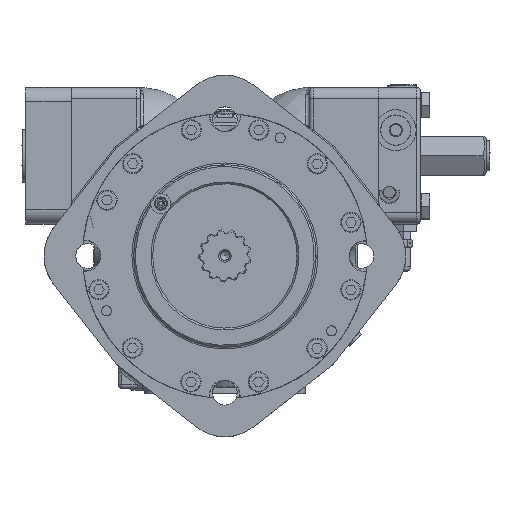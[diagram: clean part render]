
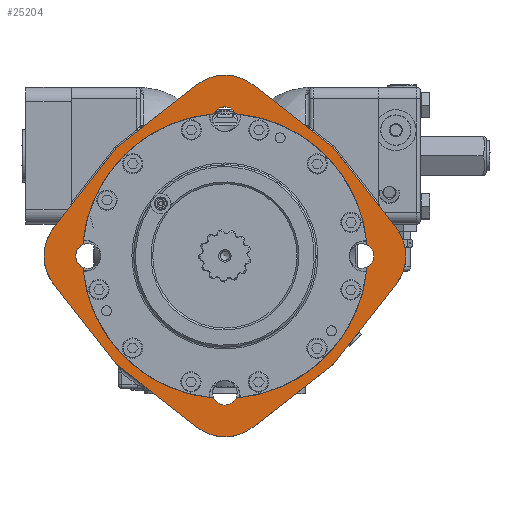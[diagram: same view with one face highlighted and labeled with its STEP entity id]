
A CAD part, top view. The second image highlights one B-rep face of the part: STEP entity #25204.
In plain terms, the highlighted planar face has unit normal (0, 0, 1).
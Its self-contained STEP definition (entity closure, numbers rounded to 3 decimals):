
#2152=FACE_BOUND($,#7230,.T.);
#2880=LINE($,#40118,#4035);
#2881=LINE($,#40120,#4036);
#2882=LINE($,#40124,#4037);
#2883=LINE($,#40126,#4038);
#2884=LINE($,#40130,#4039);
#2885=LINE($,#40132,#4040);
#2886=LINE($,#40136,#4041);
#2887=LINE($,#40138,#4042);
#4035=VECTOR($,#31019,3.349);
#4036=VECTOR($,#31020,3.349);
#4037=VECTOR($,#31023,3.349);
#4038=VECTOR($,#31024,3.349);
#4039=VECTOR($,#31027,3.349);
#4040=VECTOR($,#31028,3.349);
#4041=VECTOR($,#31031,3.349);
#4042=VECTOR($,#31032,3.349);
#5285=FACE_OUTER_BOUND($,#7229,.T.);
#7229=EDGE_LOOP($,(#17602,#17603,#17604,#17605,#17606,#17607,#17608,#17609,
#17610,#17611,#17612,#17613));
#7230=EDGE_LOOP($,(#17614,#17615,#17616,#17617,#17618,#17619,#17620,#17621));
#9622=CIRCLE($,#27316,0.405);
#9624=CIRCLE($,#27319,0.405);
#9626=CIRCLE($,#27322,0.405);
#9628=CIRCLE($,#27325,0.405);
#9630=CIRCLE($,#27328,1.5);
#9631=CIRCLE($,#27329,1.5);
#9632=CIRCLE($,#27330,1.5);
#9633=CIRCLE($,#27331,1.5);
#9634=CIRCLE($,#27332,4.687);
#9635=CIRCLE($,#27333,4.687);
#9636=CIRCLE($,#27334,4.687);
#9637=CIRCLE($,#27335,4.687);
#11316=VERTEX_POINT($,#40084);
#11317=VERTEX_POINT($,#40086);
#11319=VERTEX_POINT($,#40092);
#11320=VERTEX_POINT($,#40094);
#11322=VERTEX_POINT($,#40100);
#11323=VERTEX_POINT($,#40102);
#11325=VERTEX_POINT($,#40108);
#11326=VERTEX_POINT($,#40110);
#11328=VERTEX_POINT($,#40116);
#11329=VERTEX_POINT($,#40117);
#11330=VERTEX_POINT($,#40119);
#11331=VERTEX_POINT($,#40121);
#11332=VERTEX_POINT($,#40123);
#11333=VERTEX_POINT($,#40125);
#11334=VERTEX_POINT($,#40127);
#11335=VERTEX_POINT($,#40129);
#11336=VERTEX_POINT($,#40131);
#11337=VERTEX_POINT($,#40133);
#11338=VERTEX_POINT($,#40135);
#11339=VERTEX_POINT($,#40137);
#13803=EDGE_CURVE($,#11317,#11316,#9622,.T.);
#13807=EDGE_CURVE($,#11320,#11319,#9624,.T.);
#13811=EDGE_CURVE($,#11323,#11322,#9626,.T.);
#13815=EDGE_CURVE($,#11326,#11325,#9628,.T.);
#13818=EDGE_CURVE($,#11328,#11329,#2880,.T.);
#13819=EDGE_CURVE($,#11330,#11328,#2881,.T.);
#13820=EDGE_CURVE($,#11331,#11330,#9630,.T.);
#13821=EDGE_CURVE($,#11332,#11331,#2882,.T.);
#13822=EDGE_CURVE($,#11333,#11332,#2883,.T.);
#13823=EDGE_CURVE($,#11334,#11333,#9631,.T.);
#13824=EDGE_CURVE($,#11335,#11334,#2884,.T.);
#13825=EDGE_CURVE($,#11336,#11335,#2885,.T.);
#13826=EDGE_CURVE($,#11337,#11336,#9632,.T.);
#13827=EDGE_CURVE($,#11338,#11337,#2886,.T.);
#13828=EDGE_CURVE($,#11339,#11338,#2887,.T.);
#13829=EDGE_CURVE($,#11329,#11339,#9633,.T.);
#13830=EDGE_CURVE($,#11320,#11316,#9634,.T.);
#13831=EDGE_CURVE($,#11323,#11319,#9635,.T.);
#13832=EDGE_CURVE($,#11326,#11322,#9636,.T.);
#13833=EDGE_CURVE($,#11317,#11325,#9637,.T.);
#17602=ORIENTED_EDGE($,*,*,#13818,.F.);
#17603=ORIENTED_EDGE($,*,*,#13819,.F.);
#17604=ORIENTED_EDGE($,*,*,#13820,.F.);
#17605=ORIENTED_EDGE($,*,*,#13821,.F.);
#17606=ORIENTED_EDGE($,*,*,#13822,.F.);
#17607=ORIENTED_EDGE($,*,*,#13823,.F.);
#17608=ORIENTED_EDGE($,*,*,#13824,.F.);
#17609=ORIENTED_EDGE($,*,*,#13825,.F.);
#17610=ORIENTED_EDGE($,*,*,#13826,.F.);
#17611=ORIENTED_EDGE($,*,*,#13827,.F.);
#17612=ORIENTED_EDGE($,*,*,#13828,.F.);
#17613=ORIENTED_EDGE($,*,*,#13829,.F.);
#17614=ORIENTED_EDGE($,*,*,#13803,.T.);
#17615=ORIENTED_EDGE($,*,*,#13830,.F.);
#17616=ORIENTED_EDGE($,*,*,#13807,.T.);
#17617=ORIENTED_EDGE($,*,*,#13831,.F.);
#17618=ORIENTED_EDGE($,*,*,#13811,.T.);
#17619=ORIENTED_EDGE($,*,*,#13832,.F.);
#17620=ORIENTED_EDGE($,*,*,#13815,.T.);
#17621=ORIENTED_EDGE($,*,*,#13833,.F.);
#24462=PLANE($,#27327);
#25204=ADVANCED_FACE($,(#5285,#2152),#24462,.F.);
#27316=AXIS2_PLACEMENT_3D($,#40087,#30988,#30989);
#27319=AXIS2_PLACEMENT_3D($,#40095,#30996,#30997);
#27322=AXIS2_PLACEMENT_3D($,#40103,#31004,#31005);
#27325=AXIS2_PLACEMENT_3D($,#40111,#31012,#31013);
#27327=AXIS2_PLACEMENT_3D($,#40115,#31017,#31018);
#27328=AXIS2_PLACEMENT_3D($,#40122,#31021,#31022);
#27329=AXIS2_PLACEMENT_3D($,#40128,#31025,#31026);
#27330=AXIS2_PLACEMENT_3D($,#40134,#31029,#31030);
#27331=AXIS2_PLACEMENT_3D($,#40139,#31033,#31034);
#27332=AXIS2_PLACEMENT_3D($,#40140,#31035,#31036);
#27333=AXIS2_PLACEMENT_3D($,#40141,#31037,#31038);
#27334=AXIS2_PLACEMENT_3D($,#40142,#31039,#31040);
#27335=AXIS2_PLACEMENT_3D($,#40143,#31041,#31042);
#30988=DIRECTION('center_axis',(0.,0.,
-1.));
#30989=DIRECTION('ref_axis',(0.,-1.,0.));
#30996=DIRECTION('center_axis',(0.,0.,
-1.));
#30997=DIRECTION('ref_axis',(0.,-1.,0.));
#31004=DIRECTION('center_axis',(0.,0.,
-1.));
#31005=DIRECTION('ref_axis',(0.,-1.,0.));
#31012=DIRECTION('center_axis',(0.,0.,
-1.));
#31013=DIRECTION('ref_axis',(0.,-1.,0.));
#31017=DIRECTION('center_axis',(0.,0.,
-1.));
#31018=DIRECTION('ref_axis',(0.707,0.707,0.));
#31019=DIRECTION($,(0.618,-0.786,0.));
#31020=DIRECTION($,(0.786,-0.618,0.));
#31021=DIRECTION('center_axis',(0.,0.,
-1.));
#31022=DIRECTION('ref_axis',(-0.618,0.786,0.));
#31023=DIRECTION($,(0.786,0.618,0.));
#31024=DIRECTION($,(0.618,0.786,0.));
#31025=DIRECTION('center_axis',(0.,0.,
-1.));
#31026=DIRECTION('ref_axis',(-0.786,-0.618,0.));
#31027=DIRECTION($,(-0.618,0.786,0.));
#31028=DIRECTION($,(-0.786,0.618,0.));
#31029=DIRECTION('center_axis',(0.,0.,
-1.));
#31030=DIRECTION('ref_axis',(0.618,-0.786,0.));
#31031=DIRECTION($,(-0.786,-0.618,0.));
#31032=DIRECTION($,(-0.618,-0.786,0.));
#31033=DIRECTION('center_axis',(0.,0.,
-1.));
#31034=DIRECTION('ref_axis',(0.786,0.618,0.));
#31035=DIRECTION('center_axis',(0.,0.,
1.));
#31036=DIRECTION('ref_axis',(0.,-1.,0.));
#31037=DIRECTION('center_axis',(0.,0.,
1.));
#31038=DIRECTION('ref_axis',(0.,-1.,0.));
#31039=DIRECTION('center_axis',(0.,0.,
1.));
#31040=DIRECTION('ref_axis',(0.,-1.,0.));
#31041=DIRECTION('center_axis',(0.,0.,
1.));
#31042=DIRECTION('ref_axis',(0.,-1.,0.));
#40084=CARTESIAN_POINT('',(0.366,4.673,0.));
#40086=CARTESIAN_POINT('',(-0.366,4.673,0.));
#40087=CARTESIAN_POINT('Origin',(0.,4.5,
0.));
#40092=CARTESIAN_POINT('',(4.673,-0.366,0.));
#40094=CARTESIAN_POINT('',(4.673,0.366,0.));
#40095=CARTESIAN_POINT('Origin',(4.5,0.,
0.));
#40100=CARTESIAN_POINT('',(-0.366,-4.673,0.));
#40102=CARTESIAN_POINT('',(0.366,-4.673,0.));
#40103=CARTESIAN_POINT('Origin',(0.,-4.5,
0.));
#40108=CARTESIAN_POINT('',(-4.673,0.366,0.));
#40110=CARTESIAN_POINT('',(-4.673,-0.366,0.));
#40111=CARTESIAN_POINT('Origin',(-4.5,0.,
0.));
#40115=CARTESIAN_POINT('Origin',(0.,-6.094,0.));
#40116=CARTESIAN_POINT('',(3.56,3.56,0.));
#40117=CARTESIAN_POINT('',(5.629,0.927,0.));
#40118=CARTESIAN_POINT($,(6.26,0.123,0.));
#40119=CARTESIAN_POINT('',(0.927,5.629,0.));
#40120=CARTESIAN_POINT($,(4.804,2.583,0.));
#40121=CARTESIAN_POINT('',(-0.927,5.629,0.));
#40122=CARTESIAN_POINT('Origin',(0.,4.449,
0.));
#40123=CARTESIAN_POINT('',(-3.56,3.56,0.));
#40124=CARTESIAN_POINT($,(-3.487,3.618,0.));
#40125=CARTESIAN_POINT('',(-5.629,0.927,0.));
#40126=CARTESIAN_POINT($,(-5.226,1.44,0.));
#40127=CARTESIAN_POINT('',(-5.629,-0.927,0.));
#40128=CARTESIAN_POINT('Origin',(-4.449,0.,
0.));
#40129=CARTESIAN_POINT('',(-3.56,-3.56,0.));
#40130=CARTESIAN_POINT($,(-3.3,-3.891,0.));
#40131=CARTESIAN_POINT('',(-0.927,-5.629,0.));
#40132=CARTESIAN_POINT($,(-1.844,-4.908,0.));
#40133=CARTESIAN_POINT('',(0.927,-5.629,0.));
#40134=CARTESIAN_POINT('Origin',(0.,-4.449,
0.));
#40135=CARTESIAN_POINT('',(3.56,-3.56,0.));
#40136=CARTESIAN_POINT($,(0.527,-5.943,0.));
#40137=CARTESIAN_POINT('',(5.629,-0.927,0.));
#40138=CARTESIAN_POINT($,(2.266,-5.208,0.));
#40139=CARTESIAN_POINT('Origin',(4.449,0.,
0.));
#40140=CARTESIAN_POINT('Origin',(0.,0.,
0.));
#40141=CARTESIAN_POINT('Origin',(0.,0.,
0.));
#40142=CARTESIAN_POINT('Origin',(0.,0.,
0.));
#40143=CARTESIAN_POINT('Origin',(0.,0.,
0.));
